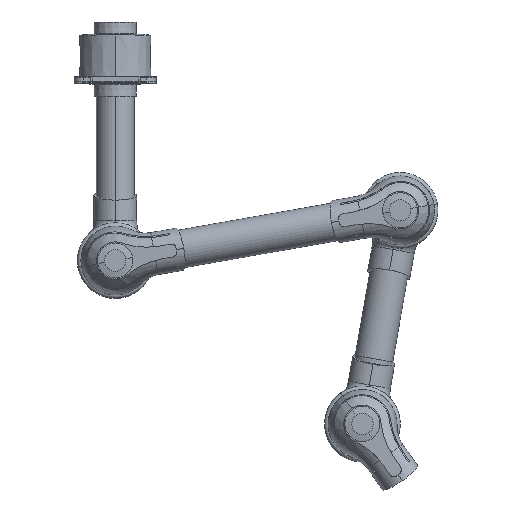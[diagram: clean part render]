
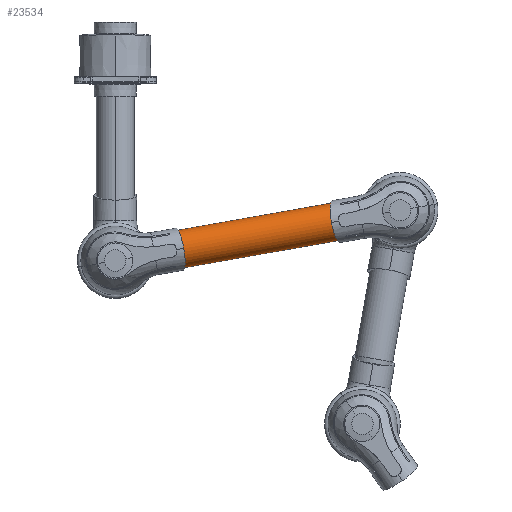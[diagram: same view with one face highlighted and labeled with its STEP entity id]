
A CAD part, top view. The second image highlights one B-rep face of the part: STEP entity #23534.
In plain terms, the highlighted cylindrical face has radius 26.3 mm (diameter 52.6 mm), a partial arc.
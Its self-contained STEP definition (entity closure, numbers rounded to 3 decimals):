
#23447=CARTESIAN_POINT('',(0.,0.,0.));
#23448=DIRECTION('',(1.,0.,0.));
#23449=DIRECTION('',(0.,1.,0.));
#23450=AXIS2_PLACEMENT_3D('',#23447,#23448,#23449);
#23455=DIRECTION('',(-1.,0.,0.));
#23456=VECTOR('',#23455,290.);
#23457=CARTESIAN_POINT('',(0.,26.3,0.));
#23458=LINE('',#23457,#23456);
#23462=DIRECTION('',(-1.,0.,0.));
#23463=VECTOR('',#23462,290.);
#23464=CARTESIAN_POINT('',(0.,-26.3,0.));
#23465=LINE('',#23464,#23463);
#23485=CARTESIAN_POINT('',(-290.,0.,0.));
#23486=DIRECTION('',(1.,0.,0.));
#23487=DIRECTION('',(0.,1.,0.));
#23488=AXIS2_PLACEMENT_3D('',#23485,#23486,#23487);
#23493=CARTESIAN_POINT('',(0.,26.3,0.));
#23494=CARTESIAN_POINT('',(-290.,26.3,0.));
#23495=VERTEX_POINT('',#23493);
#23496=VERTEX_POINT('',#23494);
#23497=CARTESIAN_POINT('',(0.,-26.3,0.));
#23498=CARTESIAN_POINT('',(-290.,-26.3,0.));
#23499=VERTEX_POINT('',#23497);
#23500=VERTEX_POINT('',#23498);
#23520=CARTESIAN_POINT('',(-304.5,0.,0.));
#23521=DIRECTION('',(1.,0.,0.));
#23522=DIRECTION('',(0.,-1.,0.));
#23523=AXIS2_PLACEMENT_3D('',#23520,#23521,#23522);
#23524=CYLINDRICAL_SURFACE('',#23523,26.3);
#23526=ORIENTED_EDGE('',*,*,#23525,.F.);
#23527=ORIENTED_EDGE('',*,*,#23506,.T.);
#23529=ORIENTED_EDGE('',*,*,#23528,.T.);
#23531=ORIENTED_EDGE('',*,*,#23530,.F.);
#23532=EDGE_LOOP('',(#23526,#23527,#23529,#23531));
#23533=FACE_OUTER_BOUND('',#23532,.F.);
#23451=CIRCLE('',#23450,26.3);
#23489=CIRCLE('',#23488,26.3);
#23506=EDGE_CURVE('',#23495,#23499,#23451,.T.);
#23525=EDGE_CURVE('',#23495,#23496,#23458,.T.);
#23528=EDGE_CURVE('',#23499,#23500,#23465,.T.);
#23530=EDGE_CURVE('',#23496,#23500,#23489,.T.);
#23534=ADVANCED_FACE('',(#23533),#23524,.T.);
